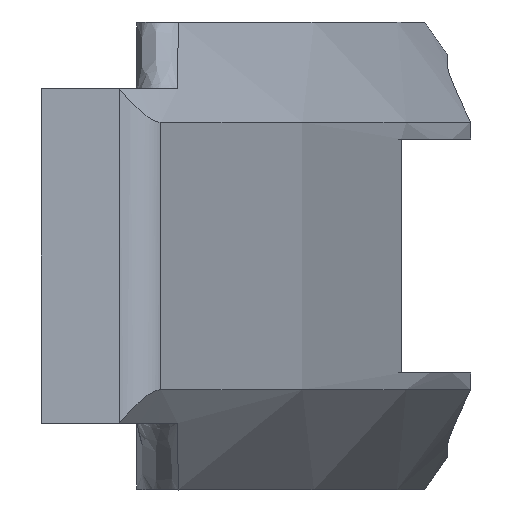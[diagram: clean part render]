
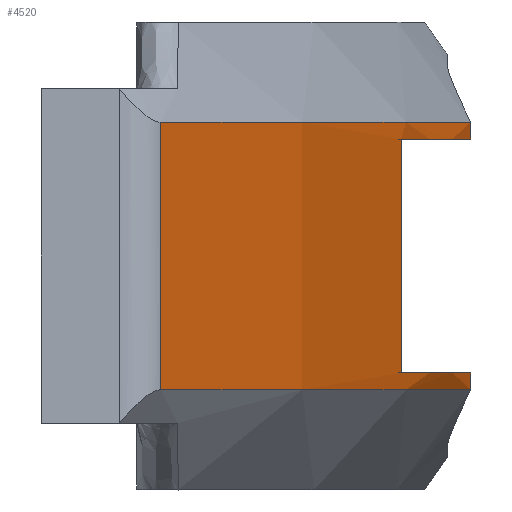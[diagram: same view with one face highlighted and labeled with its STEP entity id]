
A CAD part, left-side view. The second image highlights one B-rep face of the part: STEP entity #4520.
In plain terms, the highlighted cylindrical face has radius 50 mm (diameter 100 mm), a partial arc.
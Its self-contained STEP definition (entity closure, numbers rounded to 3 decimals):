
#285=FACE_OUTER_BOUND('',#545,.T.);
#545=EDGE_LOOP('',(#3135,#3136,#3137,#3138,#3139,#3140,#3141,#3142));
#828=CIRCLE('',#4803,50.);
#832=CIRCLE('',#4808,50.);
#837=CIRCLE('',#4814,50.);
#838=CIRCLE('',#4815,50.);
#903=LINE('',#5925,#1296);
#905=LINE('',#5943,#1298);
#919=LINE('',#6034,#1312);
#920=LINE('',#6037,#1313);
#1296=VECTOR('',#5041,10.);
#1298=VECTOR('',#5047,10.);
#1312=VECTOR('',#5091,10.);
#1313=VECTOR('',#5094,10.);
#1921=VERTEX_POINT('',#5912);
#1923=VERTEX_POINT('',#5923);
#1924=VERTEX_POINT('',#5932);
#1926=VERTEX_POINT('',#5942);
#1928=VERTEX_POINT('',#5953);
#1941=VERTEX_POINT('',#5982);
#1951=VERTEX_POINT('',#6032);
#1952=VERTEX_POINT('',#6035);
#2389=EDGE_CURVE('',#1921,#1923,#903,.T.);
#2393=EDGE_CURVE('',#1926,#1924,#905,.T.);
#2398=EDGE_CURVE('',#1928,#1926,#828,.T.);
#2413=EDGE_CURVE('',#1941,#1921,#832,.T.);
#2424=EDGE_CURVE('',#1924,#1951,#837,.T.);
#2425=EDGE_CURVE('',#1951,#1941,#919,.T.);
#2426=EDGE_CURVE('',#1923,#1952,#838,.T.);
#2427=EDGE_CURVE('',#1952,#1928,#920,.T.);
#3135=ORIENTED_EDGE('',*,*,#2393,.T.);
#3136=ORIENTED_EDGE('',*,*,#2424,.T.);
#3137=ORIENTED_EDGE('',*,*,#2425,.T.);
#3138=ORIENTED_EDGE('',*,*,#2413,.T.);
#3139=ORIENTED_EDGE('',*,*,#2389,.T.);
#3140=ORIENTED_EDGE('',*,*,#2426,.T.);
#3141=ORIENTED_EDGE('',*,*,#2427,.T.);
#3142=ORIENTED_EDGE('',*,*,#2398,.T.);
#4485=CYLINDRICAL_SURFACE('',#4813,50.);
#4520=ADVANCED_FACE('',(#285),#4485,.T.);
#4803=AXIS2_PLACEMENT_3D('',#5954,#5056,#5057);
#4808=AXIS2_PLACEMENT_3D('',#5983,#5077,#5078);
#4813=AXIS2_PLACEMENT_3D('',#6031,#5087,#5088);
#4814=AXIS2_PLACEMENT_3D('',#6033,#5089,#5090);
#4815=AXIS2_PLACEMENT_3D('',#6036,#5092,#5093);
#5041=DIRECTION('',(0.,0.,1.));
#5047=DIRECTION('',(0.,0.,1.));
#5056=DIRECTION('center_axis',(0.,0.,1.));
#5057=DIRECTION('ref_axis',(-0.52,-0.854,0.));
#5077=DIRECTION('center_axis',(0.,0.,1.));
#5078=DIRECTION('ref_axis',(-0.52,-0.854,0.));
#5087=DIRECTION('center_axis',(0.,0.,1.));
#5088=DIRECTION('ref_axis',(-0.52,-0.854,0.));
#5089=DIRECTION('center_axis',(0.,0.,-1.));
#5090=DIRECTION('ref_axis',(-0.52,-0.854,0.));
#5091=DIRECTION('',(0.,0.,-1.));
#5092=DIRECTION('center_axis',(0.,0.,-1.));
#5093=DIRECTION('ref_axis',(-0.52,-0.854,0.));
#5094=DIRECTION('',(0.,0.,1.));
#5912=CARTESIAN_POINT('',(-7.101,-8.993,-2.8));
#5923=CARTESIAN_POINT('',(-7.101,-8.993,-2.45));
#5925=CARTESIAN_POINT('',(-7.101,-8.993,0.));
#5932=CARTESIAN_POINT('',(-7.101,-8.993,2.8));
#5942=CARTESIAN_POINT('',(-7.101,-8.993,2.45));
#5943=CARTESIAN_POINT('',(-7.101,-8.993,0.));
#5953=CARTESIAN_POINT('',(-13.868,-7.538,2.45));
#5954=CARTESIAN_POINT('Origin',(0.,40.5,2.45));
#5982=CARTESIAN_POINT('',(-25.51,-2.503,-2.8));
#5983=CARTESIAN_POINT('Origin',(0.,40.5,-2.8));
#6031=CARTESIAN_POINT('Origin',(0.,40.5,0.));
#6032=CARTESIAN_POINT('',(-25.51,-2.503,2.8));
#6033=CARTESIAN_POINT('Origin',(0.,40.5,2.8));
#6034=CARTESIAN_POINT('',(-25.51,-2.503,0.));
#6035=CARTESIAN_POINT('',(-13.868,-7.538,-2.45));
#6036=CARTESIAN_POINT('Origin',(0.,40.5,-2.45));
#6037=CARTESIAN_POINT('',(-13.868,-7.538,0.));
